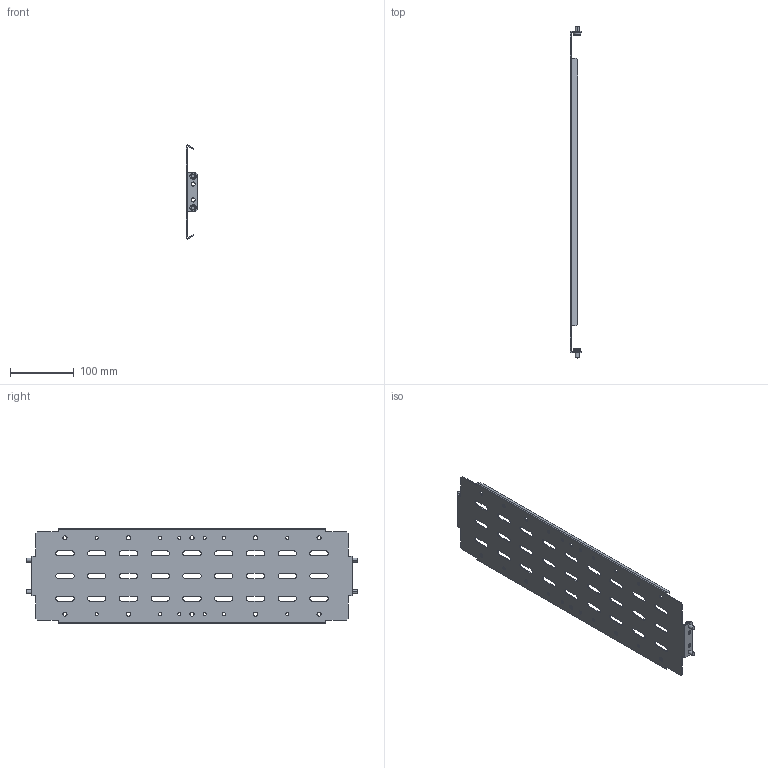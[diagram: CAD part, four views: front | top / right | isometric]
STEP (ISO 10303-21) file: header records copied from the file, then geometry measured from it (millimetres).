
FILE_DESCRIPTION (( 'STEP AP214' ), '1' );
FILE_NAME ('FO-00-SWV-015-060 Ïåðåãîðîäêà ñåêöèîíèðîâàíèÿ âåðòèêàëüíàÿ 150x600 ìì.STEP', '2025-08-11T08:13:13', ( '' ), ( '' ), 'SwSTEP 2.0', 'SolidWorks 2023', '' );
FILE_SCHEMA (( 'AUTOMOTIVE_DESIGN' ));
Length unit declared in the file: millimetre
Products named in the file (1): FO-00-SWV-015-060 Перегородка секционирования вертикальная 150x600 мм
Bounding box: 17.5 x 522.5 x 148.93 mm (x, y, z)
Volume: 118811.3 mm3; surface area: 162692.7 mm2
Topology: 1 solids, 1 shells, 304 faces, 834 edges, 548 vertices
Faces by surface type: plane 150, cylinder 130, torus 16, cone 8
Entity records: 9941 total; most frequent: DIRECTION 1744, CARTESIAN_POINT 1687, ORIENTED_EDGE 1668, EDGE_CURVE 834, AXIS2_PLACEMENT_3D 605, VERTEX_POINT 548, LINE 534, VECTOR 534
